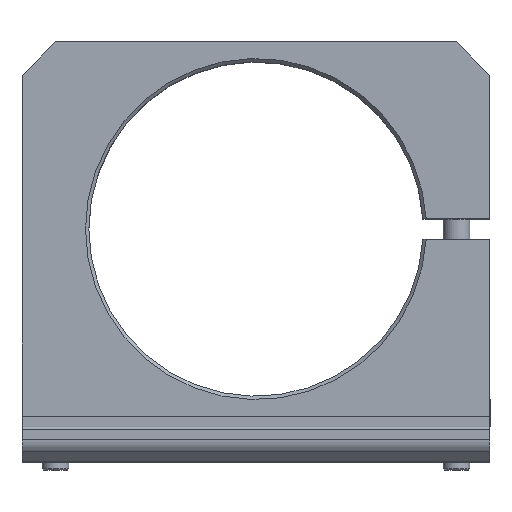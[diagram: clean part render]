
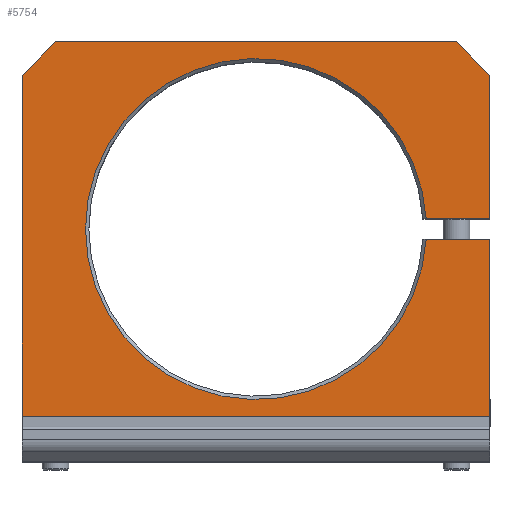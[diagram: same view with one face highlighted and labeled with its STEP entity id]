
A CAD part, top view. The second image highlights one B-rep face of the part: STEP entity #5754.
In plain terms, the highlighted planar face has unit normal (0, 0, 1).
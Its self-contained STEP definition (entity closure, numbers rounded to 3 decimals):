
#106 = LINE ( 'NONE', #5508, #7690 ) ;
#129 = EDGE_CURVE ( 'NONE', #1494, #3859, #106, .T. ) ;
#200 = LINE ( 'NONE', #1749, #5835 ) ;
#327 = VERTEX_POINT ( 'NONE', #4182 ) ;
#368 = CARTESIAN_POINT ( 'NONE',  ( -95.388, -9.732, 32.465 ) ) ;
#724 = EDGE_CURVE ( 'NONE', #2639, #9274, #1737, .T. ) ;
#733 = DIRECTION ( 'NONE',  ( -1., 0., 0. ) ) ;
#746 = CARTESIAN_POINT ( 'NONE',  ( -25.388, 46.268, 32.465 ) ) ;
#1082 = CARTESIAN_POINT ( 'NONE',  ( -95.388, 41.268, 32.465 ) ) ;
#1189 = VERTEX_POINT ( 'NONE', #368 ) ;
#1245 = VERTEX_POINT ( 'NONE', #1082 ) ;
#1477 = DIRECTION ( 'NONE',  ( -1., 0., 0. ) ) ;
#1494 = VERTEX_POINT ( 'NONE', #1786 ) ;
#1496 = LINE ( 'NONE', #5470, #9092 ) ;
#1737 = LINE ( 'NONE', #8914, #5229 ) ;
#1749 = CARTESIAN_POINT ( 'NONE',  ( -25.388, -9.732, 32.465 ) ) ;
#1786 = CARTESIAN_POINT ( 'NONE',  ( -25.388, -9.732, 32.465 ) ) ;
#1855 = VECTOR ( 'NONE', #9071, 1000. ) ;
#2414 = CARTESIAN_POINT ( 'NONE',  ( -95.388, 46.268, 32.465 ) ) ;
#2495 = DIRECTION ( 'NONE',  ( 1., 0., 0. ) ) ;
#2496 = DIRECTION ( 'NONE',  ( -1., 0., 0. ) ) ;
#2554 = DIRECTION ( 'NONE',  ( 0., 0., 1. ) ) ;
#2619 = ORIENTED_EDGE ( 'NONE', *, *, #724, .T. ) ;
#2639 = VERTEX_POINT ( 'NONE', #5394 ) ;
#2646 = EDGE_CURVE ( 'NONE', #7362, #2639, #7353, .T. ) ;
#2685 = EDGE_CURVE ( 'NONE', #3859, #7362, #6902, .T. ) ;
#2694 = DIRECTION ( 'NONE',  ( 0., -1., 0. ) ) ;
#2717 = PLANE ( 'NONE',  #7341 ) ;
#2768 = DIRECTION ( 'NONE',  ( 0., 1., 0. ) ) ;
#2769 = CARTESIAN_POINT ( 'NONE',  ( 0., 0., 32.465 ) ) ;
#2784 = CARTESIAN_POINT ( 'NONE',  ( -25.388, -11.232, 32.465 ) ) ;
#2829 = ORIENTED_EDGE ( 'NONE', *, *, #8005, .T. ) ;
#2852 = CARTESIAN_POINT ( 'NONE',  ( -25.388, 41.268, 32.465 ) ) ;
#3064 = CARTESIAN_POINT ( 'NONE',  ( -25.388, 16.768, 32.465 ) ) ;
#3169 = VECTOR ( 'NONE', #2768, 1000. ) ;
#3303 = ORIENTED_EDGE ( 'NONE', *, *, #6519, .T. ) ;
#3551 = ORIENTED_EDGE ( 'NONE', *, *, #4162, .F. ) ;
#3691 = EDGE_CURVE ( 'NONE', #1245, #1189, #8900, .T. ) ;
#3746 = CARTESIAN_POINT ( 'NONE',  ( -25.388, 16.768, 32.465 ) ) ;
#3842 = VERTEX_POINT ( 'NONE', #4516 ) ;
#3859 = VERTEX_POINT ( 'NONE', #3064 ) ;
#4162 = EDGE_CURVE ( 'NONE', #1494, #1189, #200, .T. ) ;
#4182 = CARTESIAN_POINT ( 'NONE',  ( -90.388, 46.268, 32.465 ) ) ;
#4288 = DIRECTION ( 'NONE',  ( 1., 0., 0. ) ) ;
#4348 = DIRECTION ( 'NONE',  ( 0., 0., -1. ) ) ;
#4390 = ORIENTED_EDGE ( 'NONE', *, *, #2646, .T. ) ;
#4409 = CARTESIAN_POINT ( 'NONE',  ( -60.388, 18.268, 32.465 ) ) ;
#4516 = CARTESIAN_POINT ( 'NONE',  ( -30.388, 46.268, 32.465 ) ) ;
#4691 = CARTESIAN_POINT ( 'NONE',  ( -25.388, 19.768, 32.465 ) ) ;
#4725 = VECTOR ( 'NONE', #733, 1000. ) ;
#4885 = ORIENTED_EDGE ( 'NONE', *, *, #5047, .T. ) ;
#4898 = VECTOR ( 'NONE', #2496, 1000. ) ;
#5047 = EDGE_CURVE ( 'NONE', #6829, #3842, #5853, .T. ) ;
#5131 = ORIENTED_EDGE ( 'NONE', *, *, #7316, .T. ) ;
#5217 = AXIS2_PLACEMENT_3D ( 'NONE', #4409, #4348, #4288 ) ;
#5229 = VECTOR ( 'NONE', #8927, 1000. ) ;
#5394 = CARTESIAN_POINT ( 'NONE',  ( -34.932, 19.768, 32.465 ) ) ;
#5470 = CARTESIAN_POINT ( 'NONE',  ( -68.328, 68.328, 32.465 ) ) ;
#5508 = CARTESIAN_POINT ( 'NONE',  ( -25.388, -11.232, 32.465 ) ) ;
#5600 = DIRECTION ( 'NONE',  ( -0.707, -0.707, 0. ) ) ;
#5613 = ORIENTED_EDGE ( 'NONE', *, *, #129, .T. ) ;
#5754 = ADVANCED_FACE ( 'NONE', ( #9207 ), #2717, .T. ) ;
#5831 = DIRECTION ( 'NONE',  ( 0., 1., 0. ) ) ;
#5835 = VECTOR ( 'NONE', #1477, 1000. ) ;
#5853 = LINE ( 'NONE', #9126, #1855 ) ;
#6036 = EDGE_LOOP ( 'NONE', ( #8137, #4390, #2619, #2829, #4885, #5131, #3303, #9236, #3551, #5613 ) ) ;
#6519 = EDGE_CURVE ( 'NONE', #327, #1245, #1496, .T. ) ;
#6829 = VERTEX_POINT ( 'NONE', #2852 ) ;
#6879 = CARTESIAN_POINT ( 'NONE',  ( -34.932, 16.768, 32.465 ) ) ;
#6902 = LINE ( 'NONE', #3746, #4898 ) ;
#6987 = VECTOR ( 'NONE', #2694, 1000. ) ;
#7203 = LINE ( 'NONE', #2784, #3169 ) ;
#7316 = EDGE_CURVE ( 'NONE', #3842, #327, #9314, .T. ) ;
#7341 = AXIS2_PLACEMENT_3D ( 'NONE', #2769, #2554, #2495 ) ;
#7353 = CIRCLE ( 'NONE', #5217, 25.5 ) ;
#7362 = VERTEX_POINT ( 'NONE', #6879 ) ;
#7690 = VECTOR ( 'NONE', #5831, 1000. ) ;
#8005 = EDGE_CURVE ( 'NONE', #9274, #6829, #7203, .T. ) ;
#8137 = ORIENTED_EDGE ( 'NONE', *, *, #2685, .T. ) ;
#8900 = LINE ( 'NONE', #2414, #6987 ) ;
#8914 = CARTESIAN_POINT ( 'NONE',  ( -35.433, 19.768, 32.465 ) ) ;
#8927 = DIRECTION ( 'NONE',  ( 1., 0., 0. ) ) ;
#9071 = DIRECTION ( 'NONE',  ( -0.707, 0.707, 0. ) ) ;
#9092 = VECTOR ( 'NONE', #5600, 1000. ) ;
#9126 = CARTESIAN_POINT ( 'NONE',  ( 7.94, 7.94, 32.465 ) ) ;
#9207 = FACE_OUTER_BOUND ( 'NONE', #6036, .T. ) ;
#9236 = ORIENTED_EDGE ( 'NONE', *, *, #3691, .T. ) ;
#9274 = VERTEX_POINT ( 'NONE', #4691 ) ;
#9314 = LINE ( 'NONE', #746, #4725 ) ;
